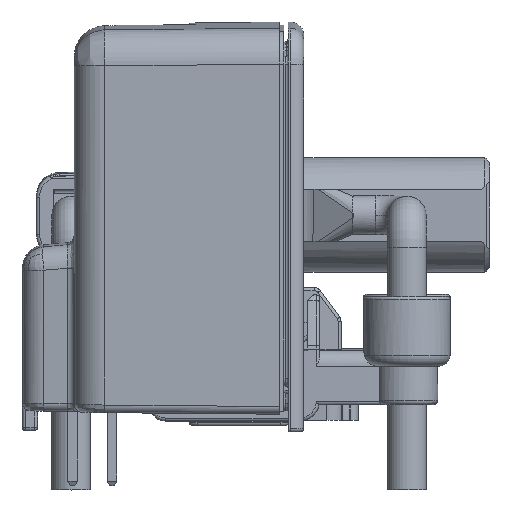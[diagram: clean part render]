
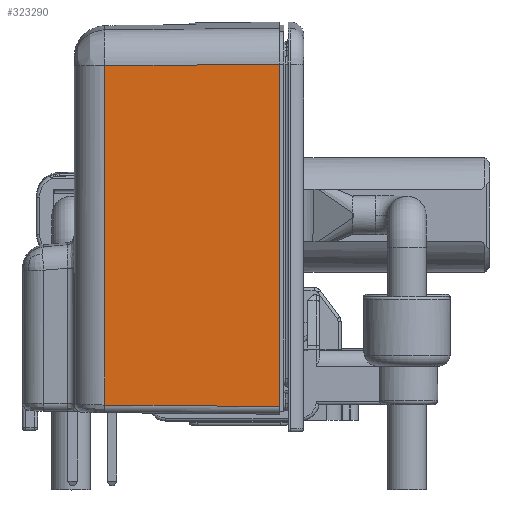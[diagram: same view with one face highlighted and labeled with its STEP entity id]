
A CAD part, front view. The second image highlights one B-rep face of the part: STEP entity #323290.
In plain terms, the highlighted planar face has unit normal (-0.009, -1, -0.01) as drawn and (-0.009, 1, -0.01) by its records, which use the part's own axes.
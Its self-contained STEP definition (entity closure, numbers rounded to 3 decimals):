
#319590=CARTESIAN_POINT('',(0.997,35.306,
12.335));
#319600=VERTEX_POINT('',#319590);
#319630=CARTESIAN_POINT('',(0.997,35.314,
13.192));
#319640=DIRECTION('',(0.,0.01,
1.));
#319650=VECTOR('',#319640,1.);
#319660=LINE('',#319630,#319650);
#319670=CARTESIAN_POINT('',(0.997,35.081,
-9.793));
#319680=VERTEX_POINT('',#319670);
#319690=EDGE_CURVE('',#319680,#319600,#319660,.T.);
#320440=CARTESIAN_POINT('',(-10.27,35.206,
12.238));
#320450=VERTEX_POINT('',#320440);
#320480=CARTESIAN_POINT('',(-10.757,35.202,
12.234));
#320490=DIRECTION('',(-1.,-0.009,
-0.009));
#320500=VECTOR('',#320490,1.);
#320510=LINE('',#320480,#320500);
#320520=EDGE_CURVE('',#319600,#320450,#320510,.T.);
#321700=CARTESIAN_POINT('',(-10.27,34.983,
-9.693));
#321710=VERTEX_POINT('',#321700);
#321740=CARTESIAN_POINT('',(-10.27,35.216,
13.172));
#321750=DIRECTION('',(0.,-0.01,
-1.));
#321760=VECTOR('',#321750,1.);
#321770=LINE('',#321740,#321760);
#321780=EDGE_CURVE('',#320450,#321710,#321770,.T.);
#323080=CARTESIAN_POINT('',(-10.773,34.979,
-9.689));
#323090=DIRECTION('',(-1.,-0.009,
0.009));
#323100=VECTOR('',#323090,1.);
#323110=LINE('',#323080,#323100);
#323120=EDGE_CURVE('',#319680,#321710,#323110,.T.);
#323180=CARTESIAN_POINT('',(-6.403,35.25,
13.192));
#323190=DIRECTION('',(0.009,-1.,
0.01));
#323200=DIRECTION('',(0.,0.01,
1.));
#323210=AXIS2_PLACEMENT_3D('',#323180,#323190,#323200);
#323220=PLANE('',#323210);
#323230=ORIENTED_EDGE('',*,*,#321780,.F.);
#323240=ORIENTED_EDGE('',*,*,#323120,.T.);
#323250=ORIENTED_EDGE('',*,*,#319690,.F.);
#323260=ORIENTED_EDGE('',*,*,#320520,.F.);
#323270=EDGE_LOOP('',(#323260,#323250,#323240,#323230));
#323280=FACE_OUTER_BOUND('',#323270,.T.);
#323290=ADVANCED_FACE('',(#323280),#323220,.F.);
